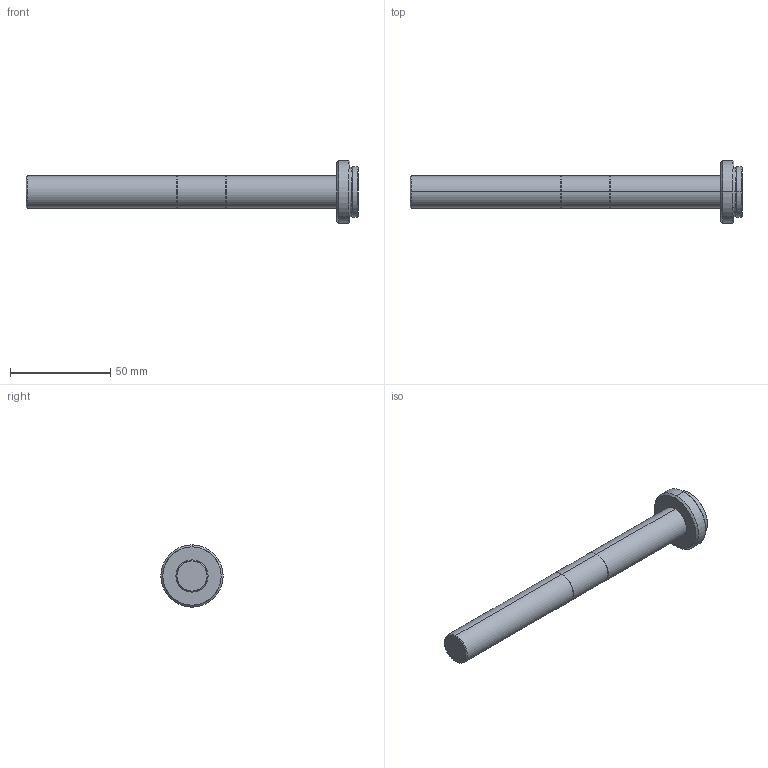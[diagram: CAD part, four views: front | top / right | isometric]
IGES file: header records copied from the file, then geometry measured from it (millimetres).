
Start section: SolidWorks IGES file using analytic representation for surfaces
Global section: file name: \\192.168.200.11\Development\02 テレセントリックレンズ\01 VS-TC／TC-LD Series\04 Super Long WD(WD150～250)\020 VS-TC2-220-16\作成中_3D\VS-TC2-220-16.IGS; native system: SolidWorks 2014; preprocessor: SolidWorks 2014; author: miura_vst; date: 140926.134602; units: millimetre
Bounding box: 165.38 x 31 x 31 mm (x, y, z)
Surface area: 10175.7 mm2 (no closed solid volume)
Topology: 0 solids, 0 shells, 34 faces, 376 edges, 376 vertices
Faces by surface type: revolution 30, bspline 4
